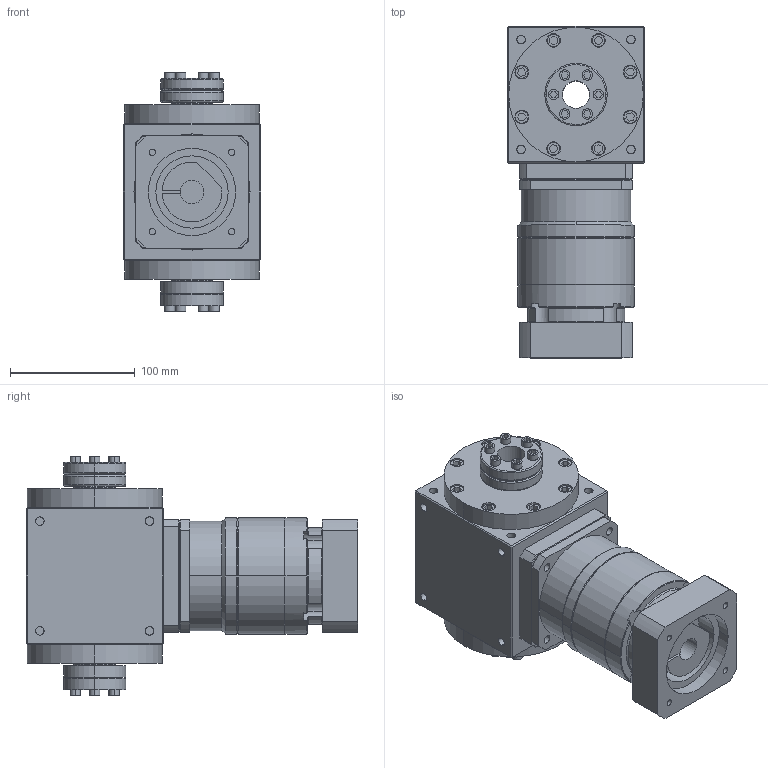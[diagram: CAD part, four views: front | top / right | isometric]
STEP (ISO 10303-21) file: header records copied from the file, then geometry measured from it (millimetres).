
FILE_DESCRIPTION (( 'STEP AP203' ), '1' );
FILE_NAME ('AT110-FC-L2 19-70-90-M6.STEP', '2024-12-19T09:22:56', ( '' ), ( '' ), 'SwSTEP 2.0', 'SolidWorks 2021', '' );
FILE_SCHEMA (( 'CONFIG_CONTROL_DESIGN' ));
Length unit declared in the file: millimetre
Products named in the file (3): VRB-090-L2-S2-P1 19-70-90-M6; AT110-FC-L2 19-70-90-M6; AT110-FC
Assembly tree (2 placements, depth 2):
  AT110-FC-L2 19-70-90-M6
    AT110-FC
    VRB-090-L2-S2-P1 19-70-90-M6
Bounding box: 110 x 266 x 192 mm (x, y, z)
Volume: 2670319.7 mm3; surface area: 209951 mm2
Topology: 2 solids, 2 shells, 682 faces, 1625 edges, 1038 vertices
Faces by surface type: plane 354, cylinder 261, cone 49, bspline 18
Entity records: 20685 total; most frequent: CARTESIAN_POINT 4581, DIRECTION 3320, ORIENTED_EDGE 3246, EDGE_CURVE 1623, AXIS2_PLACEMENT_3D 1201, VERTEX_POINT 1038, VECTOR 918, LINE 918
